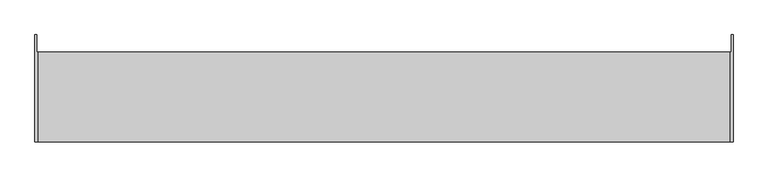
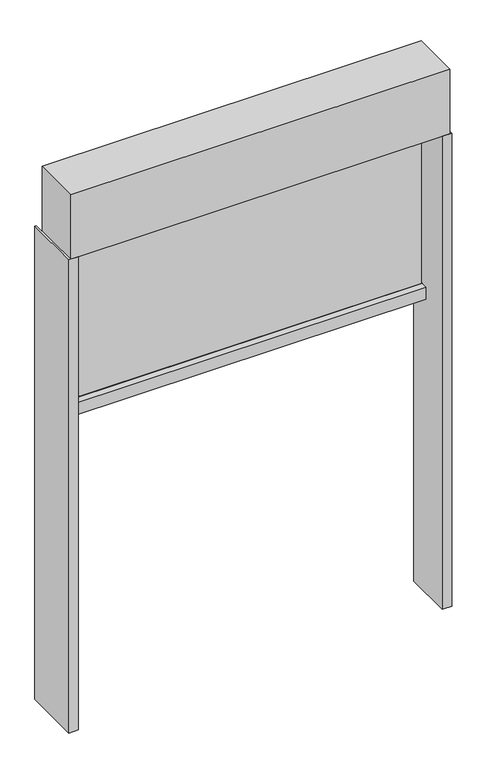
"""IFC4 building model written with IfcOpenShell, lengths in millimetres: proxy geometry, Renson_Fixscreen_Minimal_Single : Recessed - Front of the window - Large - Access downwards - Fabric close to the window."""

import ifcopenshell
import ifcopenshell.guid

model = None  # the IFC model being written
_history = None  # IfcOwnerHistory: only IFC2X3 demands one
_inside = {}  # id of a spatial element -> (the spatial element, [elements in it])
_under = {}  # id of a project, library or spatial element -> (it, [spatial elements below it])
_declared = {}  # id of a project -> (the project, [libraries it declares])
_typed = {}  # id of a type object -> (the type object, [elements of that type])
_made_of = {}  # id of a material, layer set ... -> (it, [elements and type objects made of it])


def new_model(schema):
    """Start an empty IFC model of exactly this schema.

    Asked for "IFC4X3", IfcOpenShell would pick the latest addendum, in which some entities
    have other attributes; the version numbers below select the first issue.
    IFC2X3 requires an IfcOwnerHistory on every rooted entity: one is made here for all.
    """
    global model, _history
    if schema == "IFC4X3":
        model = ifcopenshell.file(schema_version=(4, 3, 0, 0))
    else:
        model = ifcopenshell.file(schema=schema)
    _inside.clear()
    _under.clear()
    _declared.clear()
    _typed.clear()
    _made_of.clear()
    _history = None
    if model.schema == "IFC2X3":
        org = make("IfcOrganization", Name="unknown")
        user = make(
            "IfcPersonAndOrganization",
            ThePerson=make("IfcPerson", FamilyName="unknown"),
            TheOrganization=org,
        )
        app = make(
            "IfcApplication",
            ApplicationDeveloper=org,
            Version="unknown",
            ApplicationFullName="unknown",
            ApplicationIdentifier="unknown",
        )
        _history = make(
            "IfcOwnerHistory",
            OwningUser=user,
            OwningApplication=app,
            ChangeAction="ADDED",
            CreationDate=0,
        )
    return model


def make(cls, **values):
    """One entity of the class cls with the attributes given. An attribute that is None is left unset."""
    return model.create_entity(
        cls, **{name: value for name, value in values.items() if value is not None}
    )


def rooted(cls, **values):
    """An entity with a GlobalId (a new one), such as an element, a storey or a relation."""
    return make(cls, GlobalId=ifcopenshell.guid.new(), OwnerHistory=_history, **values)


def si_unit(unit_type, name, prefix=None):
    """IfcSIUnit, for example si_unit("LENGTHUNIT", "METRE", prefix="MILLI")."""
    return make("IfcSIUnit", UnitType=unit_type, Prefix=prefix, Name=name)


def assignment(units):
    """IfcUnitAssignment: the units of a project."""
    return None if units is None else make("IfcUnitAssignment", Units=units)


def point(xyz):
    """IfcCartesianPoint."""
    return None if xyz is None else make("IfcCartesianPoint", Coordinates=xyz)


def direction(xyz):
    """IfcDirection."""
    return None if xyz is None else make("IfcDirection", DirectionRatios=xyz)


def frame(location, z_axis=None, x_axis=None):
    """IfcAxis2Placement3D, a coordinate frame: its origin and axes. An axis left out is left unset."""
    return make(
        "IfcAxis2Placement3D",
        Location=point(location),
        Axis=direction(z_axis),
        RefDirection=direction(x_axis),
    )


def frame_2d(location, x_axis=None):
    """IfcAxis2Placement2D, a coordinate frame in the plane: its origin and x axis."""
    return make(
        "IfcAxis2Placement2D", Location=point(location), RefDirection=direction(x_axis)
    )


def origin():
    """The frame at (0, 0, 0) with its axes left unset."""
    return frame((0.0, 0.0, 0.0))


def origin_with_axes():
    """The frame at (0, 0, 0) with the z axis (0, 0, 1) and the x axis (1, 0, 0) written out."""
    return frame((0.0, 0.0, 0.0), z_axis=(0.0, 0.0, 1.0), x_axis=(1.0, 0.0, 0.0))


def place(relative_to, where):
    """IfcLocalPlacement: puts the frame where relative to a parent placement (None: the world)."""
    return make(
        "IfcLocalPlacement", PlacementRelTo=relative_to, RelativePlacement=where
    )


def context(
    kind, dimensions, precision=None, world=None, true_north=None, identifier=None
):
    """IfcGeometricRepresentationContext, for example the 3D "Model" context."""
    return make(
        "IfcGeometricRepresentationContext",
        ContextIdentifier=identifier,
        ContextType=kind,
        CoordinateSpaceDimension=dimensions,
        Precision=precision,
        WorldCoordinateSystem=world,
        TrueNorth=true_north,
    )


def project(units=None, contexts=None):
    """IfcProject with its units and contexts."""
    return rooted(
        "IfcProject",
        Name="project",
        RepresentationContexts=contexts,
        UnitsInContext=assignment(units),
    )


def spatial(cls, under=None, at=None, **own):
    """A site, building, storey or space (cls), placed at a placement, below another one or the project."""
    s = rooted(cls, ObjectPlacement=at, **own)
    if under is not None:
        _under.setdefault(under.id(), (under, []))[1].append(s)
    return s


def polyline(points):
    """IfcPolyline through the points."""
    return make("IfcPolyline", Points=[point(p) for p in points])


def circle_curve(where, radius):
    """IfcCircle in the frame where."""
    return make("IfcCircle", Position=where, Radius=radius)


def trimmed(basis, trim1, trim2, sense, master):
    """IfcTrimmedCurve: the piece of a basis curve between two trims."""
    return make(
        "IfcTrimmedCurve",
        BasisCurve=basis,
        Trim1=trim1,
        Trim2=trim2,
        SenseAgreement=sense,
        MasterRepresentation=master,
    )


def segment(curve, same_sense, transition):
    """IfcCompositeCurveSegment."""
    return make(
        "IfcCompositeCurveSegment",
        Transition=transition,
        SameSense=same_sense,
        ParentCurve=curve,
    )


def composite_curve(segments, self_intersect=None):
    """IfcCompositeCurve: segments joined end to end."""
    return make("IfcCompositeCurve", Segments=segments, SelfIntersect=self_intersect)


def outline(outer, holes=None, kind="AREA"):
    """IfcArbitraryClosedProfileDef: a profile drawn as a closed curve; with holes, ...WithVoids."""
    if holes is None:
        return make("IfcArbitraryClosedProfileDef", ProfileType=kind, OuterCurve=outer)
    return make(
        "IfcArbitraryProfileDefWithVoids",
        ProfileType=kind,
        OuterCurve=outer,
        InnerCurves=holes,
    )


def extrude(swept, where, along, depth):
    """IfcExtrudedAreaSolid: the profile swept, set in the frame where, extruded along a direction by depth."""
    return make(
        "IfcExtrudedAreaSolid",
        SweptArea=swept,
        Position=where,
        ExtrudedDirection=direction(along),
        Depth=depth,
    )


def shape(context_of_items, identifier, shape_type, items):
    """IfcShapeRepresentation: the items that make up one representation, for example the "Body"."""
    return make(
        "IfcShapeRepresentation",
        ContextOfItems=context_of_items,
        RepresentationIdentifier=identifier,
        RepresentationType=shape_type,
        Items=items,
    )


def source(mapping_origin, context_of_items, identifier, shape_type, items):
    """IfcRepresentationMap: a shape defined once, which mapped items show again and again."""
    return make(
        "IfcRepresentationMap",
        MappingOrigin=mapping_origin,
        MappedRepresentation=shape(context_of_items, identifier, shape_type, items),
    )


def transform(
    local_origin,
    x_axis=None,
    y_axis=None,
    z_axis=None,
    scale=None,
    scale2=None,
    scale3=None,
    uniform=True,
):
    """IfcCartesianTransformationOperator3D, or its non-uniform kind. x_axis, y_axis, z_axis: its Axis1, 2, 3."""
    if uniform:
        return make(
            "IfcCartesianTransformationOperator3D",
            Axis1=direction(x_axis),
            Axis2=direction(y_axis),
            LocalOrigin=point(local_origin),
            Scale=scale,
            Axis3=direction(z_axis),
        )
    return make(
        "IfcCartesianTransformationOperator3DnonUniform",
        Axis1=direction(x_axis),
        Axis2=direction(y_axis),
        LocalOrigin=point(local_origin),
        Scale=scale,
        Axis3=direction(z_axis),
        Scale2=scale2,
        Scale3=scale3,
    )


def mapped(mapping_source, mapping_target):
    """IfcMappedItem: shows the shape of a source again, moved by a transform."""
    return make(
        "IfcMappedItem", MappingSource=mapping_source, MappingTarget=mapping_target
    )


def made_of(thing, what):
    """Note that an element or type object is made of a material, layer set ...; save() writes the relation."""
    if what is not None:
        _made_of.setdefault(what.id(), (what, []))[1].append(thing)
    return thing


def element(
    cls,
    number,
    at=None,
    inside=None,
    cuts=None,
    type_object=None,
    material=None,
    context=None,
    identifier="Body",
    shape_type=None,
    held_by="IfcProductDefinitionShape",
    body=None,
    shapes=None,
    **own,
):
    """One element of the class cls, such as IfcWall. Its Tag is "e" and its number.

    at: its placement. inside: the storey or other place that contains it. cuts: it is an
    opening in that element (IfcRelVoidsElement). A single representation is given by context,
    identifier, shape_type and body (its items); several are given by shapes. held_by: the class
    of the entity that holds the representations. save() writes the other relations.
    """
    e = rooted(cls, Tag="e%d" % number, ObjectPlacement=at, **own)
    if body is not None:
        shapes = [shape(context, identifier, shape_type, body)]
    if shapes is not None:
        e.Representation = make(held_by, Representations=shapes)
    if inside is not None:
        _inside.setdefault(inside.id(), (inside, []))[1].append(e)
    if cuts is not None:
        rooted(
            "IfcRelVoidsElement", RelatingBuildingElement=cuts, RelatedOpeningElement=e
        )
    if type_object is not None:
        _typed.setdefault(type_object.id(), (type_object, []))[1].append(e)
    return made_of(e, material)


def aggregate(whole, parts):
    """IfcRelAggregates: a whole, such as a stair, and the parts it consists of."""
    return rooted("IfcRelAggregates", RelatingObject=whole, RelatedObjects=parts)


def save(model, path):
    """Write the relations noted so far, then the file.

    IfcRelAggregates (storeys below a building ...), IfcRelContainedInSpatialStructure (elements
    in a storey), IfcRelDefinesByType, IfcRelAssociatesMaterial and IfcRelDeclares: one each for
    every whole, place, type object, material and project.
    """
    for whole, parts in _under.values():
        aggregate(whole, parts)
    for where, things in _inside.values():
        rooted(
            "IfcRelContainedInSpatialStructure",
            RelatedElements=things,
            RelatingStructure=where,
        )
    for kind, things in _typed.values():
        rooted("IfcRelDefinesByType", RelatedObjects=things, RelatingType=kind)
    for what, things in _made_of.values():
        rooted("IfcRelAssociatesMaterial", RelatedObjects=things, RelatingMaterial=what)
    for by, libraries in _declared.values():
        rooted("IfcRelDeclares", RelatingContext=by, RelatedDefinitions=libraries)
    model.write(path)


def generic_models_c61ce915(model_context):
    return source(origin(), model_context, "Body", "SweptSolid", [
        extrude(outline(polyline([(480.0, 563.5959909), (480.0, 693.5959909), (502.0, 693.5959909), (502.0, 718.5959909), (505.0, 718.5959909), (505.0, 563.5959909), (480.0, 563.5959909)])), origin_with_axes(), (0.0, 0.0, 1.0), 1320.0),
        extrude(outline(polyline([(-480.0, 563.5959909), (-505.0, 563.5959909), (-505.0, 718.5959909), (-502.0, 718.5959909), (-502.0, 693.5959909), (-480.0, 693.5959909), (-480.0, 563.5959909)])), origin_with_axes(), (0.0, 0.0, 1.0), 1320.0),
        extrude(outline(composite_curve([segment(polyline([(678.5959909, 820.0), (638.0960943, 820.0), (638.0960943, 854.1156826), (655.2198229, 855.0)]), True, "CONTINUOUS"), segment(trimmed(circle_curve(frame_2d((655.2459909, 854.5006852)), 0.5), [point((655.2198229, 855.0))], [point((655.7459909, 854.5006852))], False, "CARTESIAN"), True, "CONTINUOUS"), segment(polyline([(655.7459909, 854.5006852), (655.7459909, 853.5367989), (654.4808525, 853.5367989), (655.221156, 849.0119223)]), True, "CONTINUOUS"), segment(trimmed(circle_curve(frame_2d((615.7459909, 842.5534911)), 40.0), [point((655.221156, 849.0119223))], [point((655.7459909, 842.5534911))], False, "CARTESIAN"), True, "CONTINUOUS"), segment(polyline([(655.7459909, 842.5534911), (655.7459909, 834.5006852)]), True, "CONTINUOUS"), segment(trimmed(circle_curve(frame_2d((657.7459909, 834.5006852)), 2.0), [point((655.7459909, 834.5006852))], [point((657.7459909, 832.5006852))], True, "CARTESIAN"), True, "CONTINUOUS"), segment(polyline([(657.7459909, 832.5006852), (659.4459909, 832.5006852)]), True, "CONTINUOUS"), segment(trimmed(circle_curve(frame_2d((659.4459909, 834.5006852)), 2.0), [point((659.4459909, 832.5006852))], [point((661.4459909, 834.5006852))], True, "CARTESIAN"), True, "CONTINUOUS"), segment(polyline([(661.4459909, 834.5006852), (661.4459909, 842.5534911)]), True, "CONTINUOUS"), segment(trimmed(circle_curve(frame_2d((701.4459909, 842.5534911)), 40.0), [point((661.4459909, 842.5534911))], [point((661.9708257, 849.0119223))], False, "CARTESIAN"), True, "CONTINUOUS"), segment(polyline([(661.9708257, 849.0119223), (662.7111292, 853.5367989), (661.4459909, 853.5367989), (661.4459909, 854.5006852)]), True, "CONTINUOUS"), segment(trimmed(circle_curve(frame_2d((661.9459909, 854.5006852)), 0.5), [point((661.4459909, 854.5006852))], [point((661.9721588, 855.0))], False, "CARTESIAN"), True, "CONTINUOUS"), segment(polyline([(661.9721588, 855.0), (678.5959909, 854.1156826), (678.5959909, 820.0)]), True, "CONTINUOUS")], self_intersect=False)), frame((-480.0, 0.0, 0.0), z_axis=(1.0, 0.0, 0.0), x_axis=(0.0, 1.0, 0.0)), (0.0, 0.0, 1.0), 960.0),
        extrude(outline(polyline([(-500.0, 563.5959909), (-500.0, 693.5959909), (500.0, 693.5959909), (500.0, 563.5959909), (-500.0, 563.5959909)])), frame((0.0, 0.0, 1320.0), z_axis=(0.0, 0.0, 1.0), x_axis=(1.0, 0.0, 0.0)), (0.0, 0.0, 1.0), 180.0),
        extrude(outline(polyline([(-480.0, 660.0959909), (480.0, 660.0959909), (480.0, 657.0959909), (-480.0, 657.0959909), (-480.0, 660.0959909)])), frame((0.0, 0.0, 832.5006852), z_axis=(0.0, 0.0, 1.0), x_axis=(1.0, 0.0, 0.0)), (0.0, 0.0, 1.0), 487.4993148),
    ])


if __name__ == "__main__":
    model = new_model("IFC4")
    model_context = context("Model", 3, world=origin())
    ifc_project = project(units=[si_unit("LENGTHUNIT", "METRE", prefix="MILLI")], contexts=[model_context])
    site = spatial("IfcSite", under=ifc_project)
    building = spatial("IfcBuilding", under=site)
    placement = place(None, origin())
    generic_models_shape = generic_models_c61ce915(model_context)
    element("IfcBuildingElementProxy", 1, Name="Renson_Fixscreen_Minimal_Single : Recessed - Front of the window - Large - Access downwards - Fabric close to the window", ObjectType="Renson_Fixscreen_Minimal_Single : Recessed - Front of the window - Large - Access downwards - Fabric close to the window", at=placement, inside=building, context=model_context, shape_type="MappedRepresentation", body=[
        mapped(generic_models_shape, transform((0.0, 0.0, 0.0), x_axis=(1.0, 0.0, 0.0), y_axis=(0.0, 1.0, 0.0), z_axis=(0.0, 0.0, 1.0))),
    ])
    save(model, "model.ifc")
